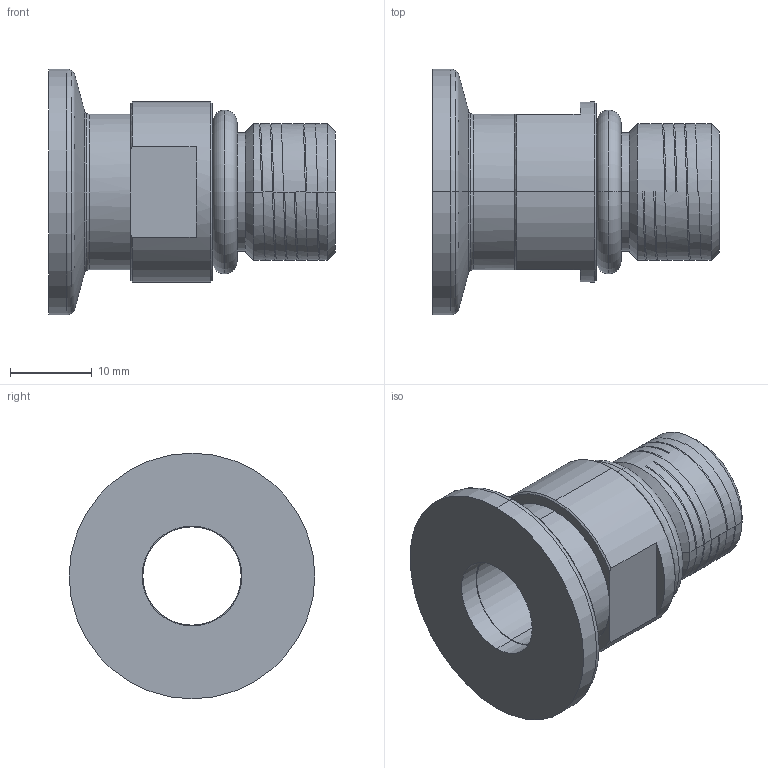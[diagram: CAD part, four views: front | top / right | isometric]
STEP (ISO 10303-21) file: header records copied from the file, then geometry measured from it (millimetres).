
FILE_DESCRIPTION((''),'2;1');
FILE_NAME('88630_ASM','2016-01-25T',('l0100062'),('Copyright by Leybold GmbH'),'PRO/ENGINEER BY PARAMETRIC TECHNOLOGY CORPORATION, 2015280','PRO/ENGINEER BY PARAMETRIC TECHNOLOGY CORPORATION, 2015280','');
FILE_SCHEMA(('AUTOMOTIVE_DESIGN { 1 0 10303 214 1 1 1 1 }'));
Length unit declared in the file: millimetre
Products named in the file (3): MANIFOLD_SOLID_BREP_40_88630_2; MANIFOLD_SOLID_BREP_41_88630; 88630_ASM
Assembly tree (2 placements, depth 2):
  88630_ASM
    MANIFOLD_SOLID_BREP_40_88630_2
    MANIFOLD_SOLID_BREP_41_88630
Bounding box: 35 x 30 x 30 mm (x, y, z)
Volume: 7422.5 mm3; surface area: 5271.7 mm2
Topology: 2 solids, 2 shells, 54 faces, 162 edges, 113 vertices
Faces by surface type: cylinder 21, torus 12, plane 11, cone 10
Entity records: 2806 total; most frequent: CARTESIAN_POINT 639, ORIENTED_EDGE 324, DIRECTION 309, PRESENTATION_STYLE_ASSIGNMENT 164, STYLED_ITEM 164, CURVE_STYLE 162, EDGE_CURVE 162, AXIS2_PLACEMENT_3D 126
